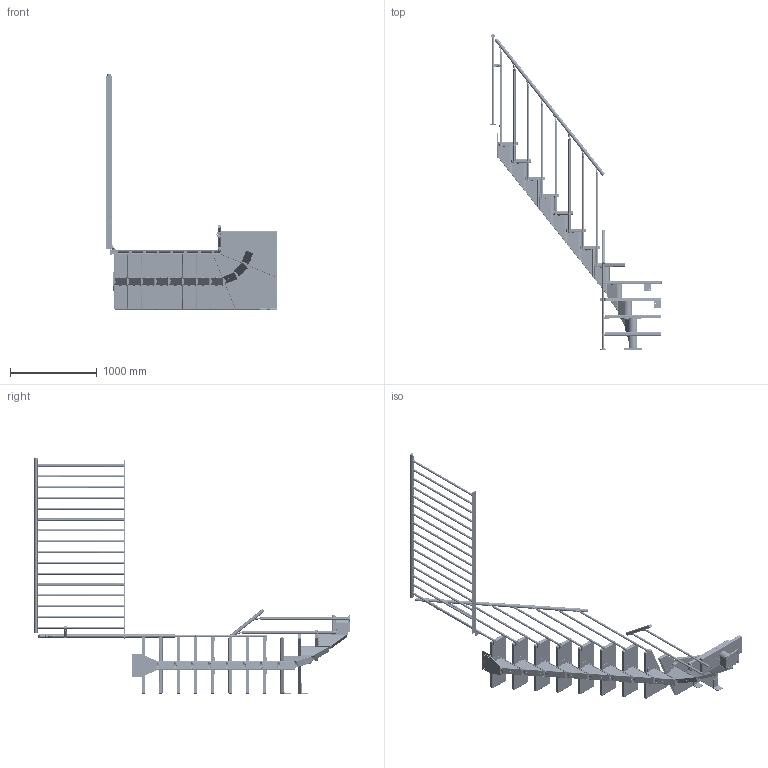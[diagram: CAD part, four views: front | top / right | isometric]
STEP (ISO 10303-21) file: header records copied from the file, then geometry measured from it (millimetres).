
FILE_DESCRIPTION (( 'STEP AP214' ), '1' );
FILE_NAME ('5478 - FRANKFURT ¼-sving CLASSIC gelænder.STEP', '2021-09-03T09:33:14', ( '' ), ( '' ), 'SwSTEP 2.0', 'SolidWorks 2019', '' );
FILE_SCHEMA (( 'AUTOMOTIVE_DESIGN' ));
Length unit declared in the file: millimetre
Products named in the file (120): K3-06027; K2-1077425_K2-1077427; 5066725; K1-1077650_K1-1077652; K2-1077025_K2-1077027; K2-1077195_K2-1077197; K1-34020___; K3-02016_M5x12 DIN 912; K1-1077209; M2-1078307; M2-1078905; M2-1078309; K1-1077155_K1-1077157; 1077480-01_13; K1-1077677-1; K2-1077170_K2-1077172; K1-40561; K2-1077675-1_K1-1077677; K3-05003_M8x6 ISO 4029 simpel; K1-40562_Default<As Machined>; 1078905; K1-1077070_K1-1077072; K3-02009_K3-02009; K3-06022_K3-06022; K1-1077170_K1-1077172; HÅNDLISTE TOP^5066725; M2-1078306; K3-05004_K3-05004; K2-1077430_K2-1077432; K1-40560; K3-03008_M8-ISO4034_Simpel; K2-1077030_K2-1077032; M2-1078300; K1-34011; K1-01040; HÅNDLISTE BUND^5066725; K1-1077400_K1-1077402; 5478 - FRANKFURT ¼-sving CLASSIC gelænder; K1-1077676; K1-1077002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
Assembly tree (261 placements, depth 5):
  5478 - FRANKFURT ¼-sving CLASSIC gelænder
    5066725
      1077480-01_13
        K2-1077420_K2-1077422
          K1-34031
          K1-34030
          K1-1077002
        K2-1077425_K2-1077427
          K1-34031
          K1-34030
        K2-1077425_K2-1077427
          K1-34031
          K1-34030
        K2-1077425_K2-1077427
          K1-34031
          K1-34030
        K2-1077425_K2-1077427
          K1-34031
          K1-34030
        K2-1077425_K2-1077427
          K1-34031
          K1-34030
        K2-1077425_K2-1077427
          K1-34031
          K1-34030
        K2-1077425_K2-1077427
          K1-34031
          K1-34030
        K2-1077425_K2-1077427
          K1-34031
          K1-34030
        K2-1077425_K2-1077427
          K1-34031
          K1-34030
        K2-1077425_K2-1077427
          K1-34031
          K1-34030
        K2-1077430_K2-1077432
          K1-34021
          K1-34020___
          K1-1077411
        K2-1077440_K2-1077442
          K1-34010
          K1-34011
        K1-1077400_K1-1077402
        K1-1077070_K1-1077072
      M2-1078300
      M2-1078301  x7
      M2-1078306
      M2-1078307
      M2-1078308
      M2-1078309
      K2-1077025_K2-1077027
        K1-40560
        K1-40561
      K2-1077030_K2-1077032
        K1-40562_Default<As Machined>
        K1-40560
      K2-1077025_K2-1077027
        K1-40560
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Bounding box: 1977.16 x 3642.16 x 2720 mm (x, y, z)
Volume: 89138655.8 mm3; surface area: 13766901.6 mm2
Topology: 214 solids, 214 shells, 6642 faces, 15974 edges, 9782 vertices
Faces by surface type: cylinder 2651, plane 2152, cone 588, bspline 587, torus 562, sphere 102
Entity records: 73048 total; most frequent: CARTESIAN_POINT 22800, DIRECTION 10206, ORIENTED_EDGE 9150, EDGE_CURVE 4575, AXIS2_PLACEMENT_3D 4106, VERTEX_POINT 2841, EDGE_LOOP 2122, LINE 1994
